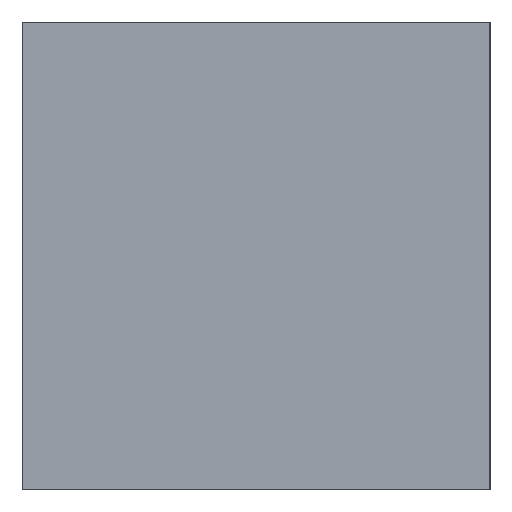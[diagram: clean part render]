
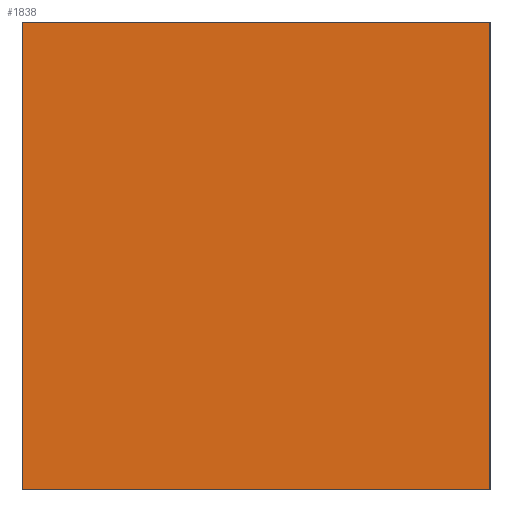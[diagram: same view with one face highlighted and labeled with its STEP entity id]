
A CAD part, left-side view. The second image highlights one B-rep face of the part: STEP entity #1838.
In plain terms, the highlighted planar face has unit normal (1, 0, 0).
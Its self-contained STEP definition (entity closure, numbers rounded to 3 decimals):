
#1799=CARTESIAN_POINT('Axis2P3D Location',(-150.,0.,0.)) ;
#1804=CARTESIAN_POINT('Line Origine',(-150.,0.,-25.)) ;
#1808=CARTESIAN_POINT('Vertex',(-150.,-12.5,-25.)) ;
#1810=CARTESIAN_POINT('Vertex',(-150.,12.5,-25.)) ;
#1813=CARTESIAN_POINT('Line Origine',(-150.,12.5,-12.5)) ;
#1817=CARTESIAN_POINT('Vertex',(-150.,12.5,0.)) ;
#1820=CARTESIAN_POINT('Line Origine',(-150.,0.,0.)) ;
#1824=CARTESIAN_POINT('Vertex',(-150.,-12.5,0.)) ;
#1827=CARTESIAN_POINT('Line Origine',(-150.,-12.5,-12.5)) ;
#1800=DIRECTION('Axis2P3D Direction',(1.,0.,0.)) ;
#1801=DIRECTION('Axis2P3D XDirection',(0.,1.,0.)) ;
#1805=DIRECTION('Vector Direction',(0.,1.,0.)) ;
#1814=DIRECTION('Vector Direction',(0.,0.,1.)) ;
#1821=DIRECTION('Vector Direction',(0.,-1.,0.)) ;
#1828=DIRECTION('Vector Direction',(0.,0.,-1.)) ;
#1802=AXIS2_PLACEMENT_3D('Plane Axis2P3D',#1799,#1800,#1801) ;
#1833=ORIENTED_EDGE('',*,*,#1812,.T.) ;
#1834=ORIENTED_EDGE('',*,*,#1819,.T.) ;
#1835=ORIENTED_EDGE('',*,*,#1826,.T.) ;
#1836=ORIENTED_EDGE('',*,*,#1831,.T.) ;
#1806=VECTOR('Line Direction',#1805,1.) ;
#1815=VECTOR('Line Direction',#1814,1.) ;
#1822=VECTOR('Line Direction',#1821,1.) ;
#1829=VECTOR('Line Direction',#1828,1.) ;
#1838=ADVANCED_FACE('MANIFOLD_SOLID_BREP #7846',(#1837),#1803,.T.) ;
#1812=EDGE_CURVE('',#1809,#1811,#1807,.T.) ;
#1819=EDGE_CURVE('',#1811,#1818,#1816,.T.) ;
#1826=EDGE_CURVE('',#1818,#1825,#1823,.T.) ;
#1831=EDGE_CURVE('',#1825,#1809,#1830,.T.) ;
#1832=EDGE_LOOP('',(#1833,#1834,#1835,#1836)) ;
#1837=FACE_OUTER_BOUND('',#1832,.T.) ;
#1807=LINE('Line',#1804,#1806) ;
#1816=LINE('Line',#1813,#1815) ;
#1823=LINE('Line',#1820,#1822) ;
#1830=LINE('Line',#1827,#1829) ;
#1803=PLANE('Plane',#1802) ;
#1809=VERTEX_POINT('',#1808) ;
#1811=VERTEX_POINT('',#1810) ;
#1818=VERTEX_POINT('',#1817) ;
#1825=VERTEX_POINT('',#1824) ;
